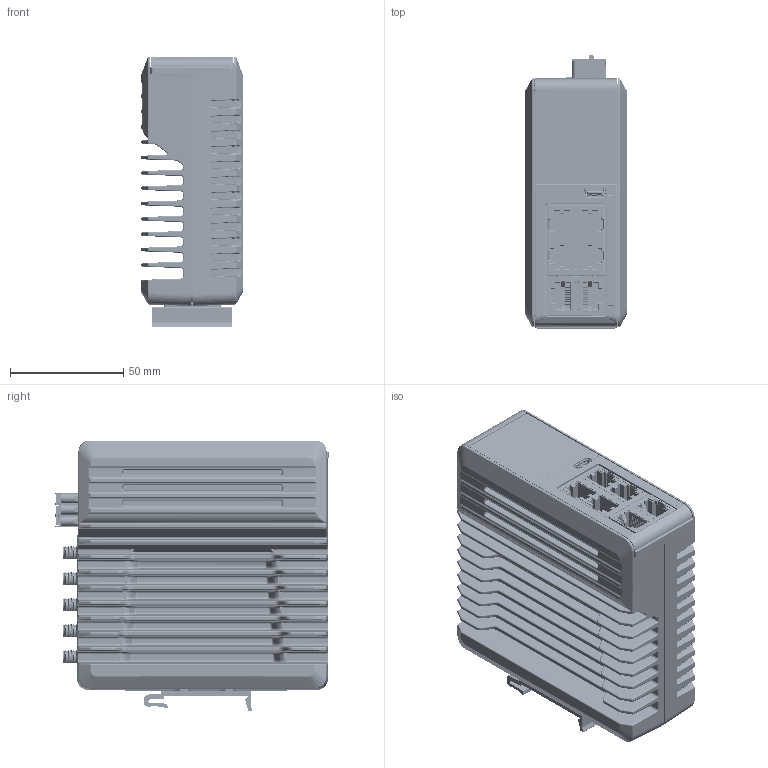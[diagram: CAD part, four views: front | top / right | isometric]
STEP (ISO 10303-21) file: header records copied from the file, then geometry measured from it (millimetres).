
FILE_DESCRIPTION (( 'STEP AP203' ), '1' );
FILE_NAME ('IXON SecureEdge Pro.STEP', '2024-05-15T07:52:51', ( '' ), ( '' ), 'SwSTEP 2.0', 'SolidWorks 2011', '' );
FILE_SCHEMA (( 'CONFIG_CONTROL_DESIGN' ));
Products named in the file (1): IXON SecureEdge Pro
Bounding box: 44.8 x 120.81 x 119.84 mm (x, y, z)
Volume: 401044.2 mm3; surface area: 118402.9 mm2
Topology: 1 solids, 23 shells, 6900 faces, 18513 edges, 11727 vertices
Faces by surface type: plane 3224, cylinder 1853, bspline 1261, cone 319, sphere 156, torus 87
Entity records: 397315 total; most frequent: CARTESIAN_POINT 238952, ORIENTED_EDGE 36988, DIRECTION 27668, EDGE_CURVE 18494, VERTEX_POINT 11726, LINE 10336, VECTOR 10336, AXIS2_PLACEMENT_3D 8666
